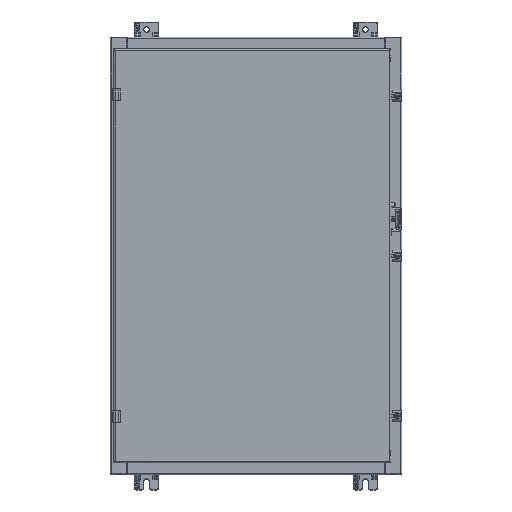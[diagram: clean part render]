
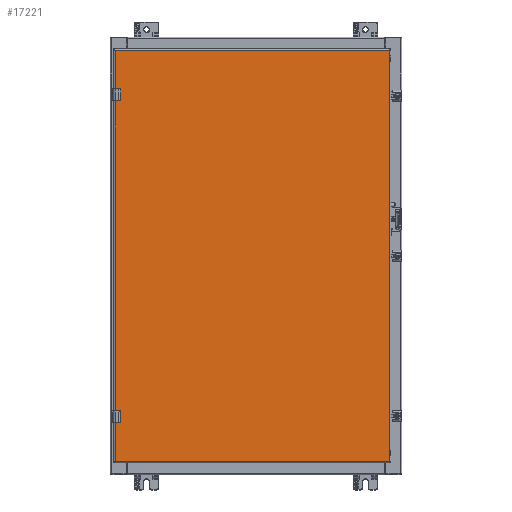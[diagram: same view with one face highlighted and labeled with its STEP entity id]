
A CAD part, top view. The second image highlights one B-rep face of the part: STEP entity #17221.
In plain terms, the highlighted planar face has unit normal (0, 0, 1) as drawn and (0, 1, 0) by its records, which use the part's own axes.
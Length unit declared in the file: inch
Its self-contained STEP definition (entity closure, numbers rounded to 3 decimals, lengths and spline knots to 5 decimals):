
#13532=DIRECTION('',(0.,0.,1.));
#13533=VECTOR('',#13532,22.566);
#13534=CARTESIAN_POINT('',(-16.91438,0.,0.117));
#13535=LINE('',#13534,#13533);
#13618=DIRECTION('',(0.,0.,-1.));
#13619=VECTOR('',#13618,0.3629);
#13620=CARTESIAN_POINT('',(13.59513,0.,22.683));
#13621=LINE('',#13620,#13619);
#13625=DIRECTION('',(-1.,0.,0.));
#13626=VECTOR('',#13625,0.63);
#13627=CARTESIAN_POINT('',(13.56513,0.,22.2901));
#13628=LINE('',#13627,#13626);
#13632=DIRECTION('',(0.,0.,-1.));
#13633=VECTOR('',#13632,0.3629);
#13634=CARTESIAN_POINT('',(12.90513,0.,22.683));
#13635=LINE('',#13634,#13633);
#13639=DIRECTION('',(0.,0.,-1.));
#13640=VECTOR('',#13639,0.3629);
#13641=CARTESIAN_POINT('',(-12.90513,0.,22.683));
#13642=LINE('',#13641,#13640);
#13646=DIRECTION('',(-1.,0.,0.));
#13647=VECTOR('',#13646,0.63);
#13648=CARTESIAN_POINT('',(-12.93513,0.,22.2901));
#13649=LINE('',#13648,#13647);
#13653=DIRECTION('',(0.,0.,-1.));
#13654=VECTOR('',#13653,0.3629);
#13655=CARTESIAN_POINT('',(-13.59513,0.,22.683));
#13656=LINE('',#13655,#13654);
#13660=DIRECTION('',(0.,0.,1.));
#13661=VECTOR('',#13660,22.566);
#13662=CARTESIAN_POINT('',(16.91438,0.,0.117));
#13663=LINE('',#13662,#13661);
#13843=DIRECTION('',(-1.,0.,0.));
#13844=VECTOR('',#13843,33.82875);
#13845=CARTESIAN_POINT('',(16.91438,0.,0.117));
#13846=LINE('',#13845,#13844);
#14806=CARTESIAN_POINT('',(12.93513,0.,22.3201));
#14807=DIRECTION('',(0.,-1.,0.));
#14808=DIRECTION('',(-1.,0.,0.));
#14809=AXIS2_PLACEMENT_3D('',#14806,#14807,#14808);
#14836=CARTESIAN_POINT('',(13.56513,0.,22.3201));
#14837=DIRECTION('',(0.,-1.,0.));
#14838=DIRECTION('',(0.,0.,-1.));
#14839=AXIS2_PLACEMENT_3D('',#14836,#14837,#14838);
#15245=DIRECTION('',(-1.,0.,0.));
#15246=VECTOR('',#15245,25.81025);
#15247=CARTESIAN_POINT('',(12.90513,0.,22.683));
#15248=LINE('',#15247,#15246);
#15290=DIRECTION('',(-1.,0.,0.));
#15291=VECTOR('',#15290,3.31925);
#15292=CARTESIAN_POINT('',(-13.59513,0.,22.683));
#15293=LINE('',#15292,#15291);
#15327=DIRECTION('',(-1.,0.,0.));
#15328=VECTOR('',#15327,3.31925);
#15329=CARTESIAN_POINT('',(16.91438,0.,22.683));
#15330=LINE('',#15329,#15328);
#15408=CARTESIAN_POINT('',(-13.56513,0.,22.3201));
#15409=DIRECTION('',(0.,-1.,0.));
#15410=DIRECTION('',(-1.,0.,0.));
#15411=AXIS2_PLACEMENT_3D('',#15408,#15409,#15410);
#15438=CARTESIAN_POINT('',(-12.93513,0.,22.3201));
#15439=DIRECTION('',(0.,-1.,0.));
#15440=DIRECTION('',(0.,0.,-1.));
#15441=AXIS2_PLACEMENT_3D('',#15438,#15439,#15440);
#16278=CARTESIAN_POINT('',(16.91438,0.,0.117));
#16279=CARTESIAN_POINT('',(-16.91438,0.,0.117));
#16280=VERTEX_POINT('',#16278);
#16281=VERTEX_POINT('',#16279);
#16488=CARTESIAN_POINT('',(-16.91438,0.,22.683));
#16489=VERTEX_POINT('',#16488);
#16498=CARTESIAN_POINT('',(16.91438,0.,22.683));
#16500=VERTEX_POINT('',#16498);
#16627=CARTESIAN_POINT('',(-12.90513,0.,22.683));
#16629=VERTEX_POINT('',#16627);
#16631=CARTESIAN_POINT('',(-13.59513,0.,22.683));
#16633=VERTEX_POINT('',#16631);
#16643=CARTESIAN_POINT('',(13.59513,0.,22.683));
#16645=VERTEX_POINT('',#16643);
#16647=CARTESIAN_POINT('',(12.90513,0.,22.683));
#16649=VERTEX_POINT('',#16647);
#16658=CARTESIAN_POINT('',(-13.59513,0.,22.3201));
#16660=VERTEX_POINT('',#16658);
#16662=CARTESIAN_POINT('',(-13.56513,0.,22.2901));
#16664=VERTEX_POINT('',#16662);
#16682=CARTESIAN_POINT('',(-12.93513,0.,22.2901));
#16684=VERTEX_POINT('',#16682);
#16686=CARTESIAN_POINT('',(-12.90513,0.,22.3201));
#16688=VERTEX_POINT('',#16686);
#16690=CARTESIAN_POINT('',(12.90513,0.,22.3201));
#16692=VERTEX_POINT('',#16690);
#16694=CARTESIAN_POINT('',(12.93513,0.,22.2901));
#16696=VERTEX_POINT('',#16694);
#16714=CARTESIAN_POINT('',(13.56513,0.,22.2901));
#16716=VERTEX_POINT('',#16714);
#16718=CARTESIAN_POINT('',(13.59513,0.,22.3201));
#16720=VERTEX_POINT('',#16718);
#17183=CARTESIAN_POINT('',(17.03138,0.,0.));
#17184=DIRECTION('',(0.,1.,0.));
#17185=DIRECTION('',(-1.,0.,0.));
#17186=AXIS2_PLACEMENT_3D('',#17183,#17184,#17185);
#17187=PLANE('',#17186);
#17189=ORIENTED_EDGE('',*,*,#17188,.T.);
#17191=ORIENTED_EDGE('',*,*,#17190,.T.);
#17193=ORIENTED_EDGE('',*,*,#17192,.T.);
#17195=ORIENTED_EDGE('',*,*,#17194,.F.);
#17197=ORIENTED_EDGE('',*,*,#17196,.T.);
#17199=ORIENTED_EDGE('',*,*,#17198,.F.);
#17201=ORIENTED_EDGE('',*,*,#17200,.F.);
#17203=ORIENTED_EDGE('',*,*,#17202,.T.);
#17205=ORIENTED_EDGE('',*,*,#17204,.T.);
#17207=ORIENTED_EDGE('',*,*,#17206,.F.);
#17209=ORIENTED_EDGE('',*,*,#17208,.T.);
#17211=ORIENTED_EDGE('',*,*,#17210,.F.);
#17213=ORIENTED_EDGE('',*,*,#17212,.F.);
#17215=ORIENTED_EDGE('',*,*,#17214,.T.);
#17216=ORIENTED_EDGE('',*,*,#17173,.F.);
#17218=ORIENTED_EDGE('',*,*,#17217,.F.);
#17219=EDGE_LOOP('',(#17189,#17191,#17193,#17195,#17197,#17199,#17201,#17203,
#17205,#17207,#17209,#17211,#17213,#17215,#17216,#17218));
#17220=FACE_OUTER_BOUND('',#17219,.F.);
#14810=CIRCLE('',#14809,0.03);
#14840=CIRCLE('',#14839,0.03);
#15412=CIRCLE('',#15411,0.03);
#15442=CIRCLE('',#15441,0.03);
#17173=EDGE_CURVE('',#16281,#16489,#13535,.T.);
#17188=EDGE_CURVE('',#16280,#16500,#13663,.T.);
#17190=EDGE_CURVE('',#16500,#16645,#15330,.T.);
#17192=EDGE_CURVE('',#16645,#16720,#13621,.T.);
#17194=EDGE_CURVE('',#16716,#16720,#14840,.T.);
#17196=EDGE_CURVE('',#16716,#16696,#13628,.T.);
#17198=EDGE_CURVE('',#16692,#16696,#14810,.T.);
#17200=EDGE_CURVE('',#16649,#16692,#13635,.T.);
#17202=EDGE_CURVE('',#16649,#16629,#15248,.T.);
#17204=EDGE_CURVE('',#16629,#16688,#13642,.T.);
#17206=EDGE_CURVE('',#16684,#16688,#15442,.T.);
#17208=EDGE_CURVE('',#16684,#16664,#13649,.T.);
#17210=EDGE_CURVE('',#16660,#16664,#15412,.T.);
#17212=EDGE_CURVE('',#16633,#16660,#13656,.T.);
#17214=EDGE_CURVE('',#16633,#16489,#15293,.T.);
#17217=EDGE_CURVE('',#16280,#16281,#13846,.T.);
#17221=ADVANCED_FACE('',(#17220),#17187,.T.);
